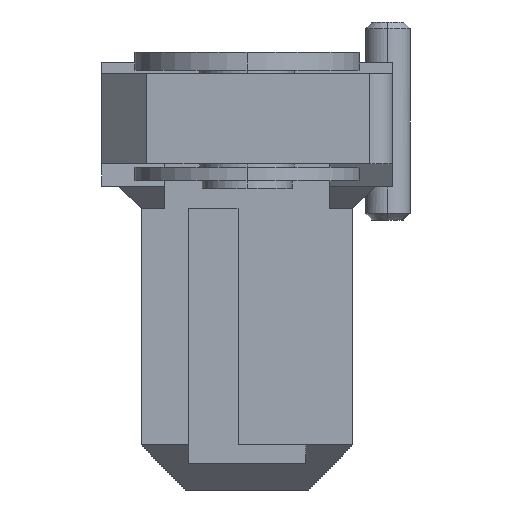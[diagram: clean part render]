
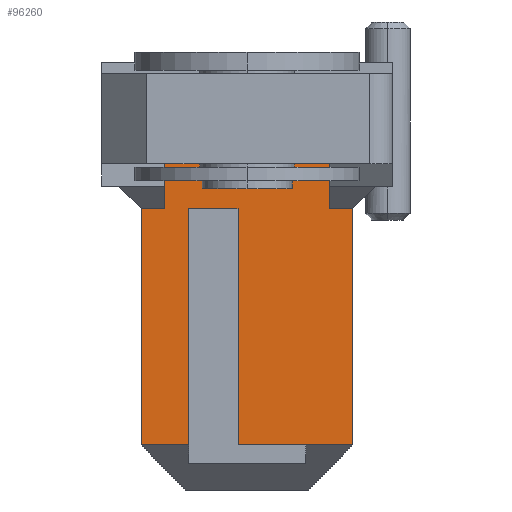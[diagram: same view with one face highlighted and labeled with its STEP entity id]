
A CAD part, left-side view. The second image highlights one B-rep face of the part: STEP entity #96260.
In plain terms, the highlighted planar face has unit normal (-1, 0, 0).
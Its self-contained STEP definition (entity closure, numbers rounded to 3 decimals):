
#95150=CARTESIAN_POINT('',(3.222,-3.386,-19.));
#95160=DIRECTION('',(-1.,0.,0.));
#95170=DIRECTION('',(0.,-1.,0.));
#95180=AXIS2_PLACEMENT_3D('',#95150,#95160,#95170);
#95190=PLANE('',#95180);
#95200=CARTESIAN_POINT('',(3.222,3.914,0.));
#95210=DIRECTION('',(0.,0.,1.));
#95220=VECTOR('',#95210,1.);
#95230=LINE('',#95200,#95220);
#95240=CARTESIAN_POINT('',(3.222,3.914,-17.));
#95250=VERTEX_POINT('',#95240);
#95260=CARTESIAN_POINT('',(3.222,3.914,
-6.5));
#95270=VERTEX_POINT('',#95260);
#95280=EDGE_CURVE('',#95250,#95270,#95230,.T.);
#95290=ORIENTED_EDGE('',*,*,#95280,.T.);
#95300=CARTESIAN_POINT('',(3.222,0.,-17.))
;
#95310=DIRECTION('',(0.,-1.,0.));
#95320=VECTOR('',#95310,1.);
#95330=LINE('',#95300,#95320);
#95340=CARTESIAN_POINT('',(3.222,6.014,-17.));
#95350=VERTEX_POINT('',#95340);
#95360=EDGE_CURVE('',#95350,#95250,#95330,.T.);
#95370=ORIENTED_EDGE('',*,*,#95360,.T.);
#95380=CARTESIAN_POINT('',(3.222,6.014,0.));
#95390=DIRECTION('',(0.,0.,1.));
#95400=VECTOR('',#95390,1.);
#95410=LINE('',#95380,#95400);
#95420=CARTESIAN_POINT('',(3.222,6.014,
-6.5));
#95430=VERTEX_POINT('',#95420);
#95440=EDGE_CURVE('',#95350,#95430,#95410,.T.);
#95450=ORIENTED_EDGE('',*,*,#95440,.F.);
#95460=CARTESIAN_POINT('',(3.222,5.989,
-6.5));
#95470=DIRECTION('',(0.,1.,0.));
#95480=VECTOR('',#95470,1.);
#95490=LINE('',#95460,#95480);
#95500=CARTESIAN_POINT('',(3.222,4.964,
-6.5));
#95510=VERTEX_POINT('',#95500);
#95520=EDGE_CURVE('',#95510,#95430,#95490,.T.);
#95530=ORIENTED_EDGE('',*,*,#95520,.T.);
#95540=CARTESIAN_POINT('',(3.222,4.964,0.));
#95550=DIRECTION('',(0.,0.,1.));
#95560=VECTOR('',#95550,1.);
#95570=LINE('',#95540,#95560);
#95580=CARTESIAN_POINT('',(3.222,4.964,-4.5));
#95590=VERTEX_POINT('',#95580);
#95600=EDGE_CURVE('',#95510,#95590,#95570,.T.);
#95610=ORIENTED_EDGE('',*,*,#95600,.F.);
#95620=CARTESIAN_POINT('',(3.222,0.,-4.5))
;
#95630=DIRECTION('',(0.,-1.,0.));
#95640=VECTOR('',#95630,1.);
#95650=LINE('',#95620,#95640);
#95660=CARTESIAN_POINT('',(3.222,-2.336,-4.5));
#95670=VERTEX_POINT('',#95660);
#95680=EDGE_CURVE('',#95590,#95670,#95650,.T.);
#95690=ORIENTED_EDGE('',*,*,#95680,.F.);
#95700=CARTESIAN_POINT('',(3.222,-2.336,0.));
#95710=DIRECTION('',(0.,0.,-1.));
#95720=VECTOR('',#95710,1.);
#95730=LINE('',#95700,#95720);
#95740=CARTESIAN_POINT('',(3.222,-2.336,
-6.5));
#95750=VERTEX_POINT('',#95740);
#95760=EDGE_CURVE('',#95670,#95750,#95730,.T.);
#95770=ORIENTED_EDGE('',*,*,#95760,.F.);
#95780=CARTESIAN_POINT('',(3.222,0.,-6.5));
#95790=DIRECTION('',(0.,-1.,0.));
#95800=VECTOR('',#95790,1.);
#95810=LINE('',#95780,#95800);
#95820=CARTESIAN_POINT('',(3.222,-3.386,
-6.5));
#95830=VERTEX_POINT('',#95820);
#95840=EDGE_CURVE('',#95750,#95830,#95810,.T.);
#95850=ORIENTED_EDGE('',*,*,#95840,.F.);
#95860=CARTESIAN_POINT('',(3.222,-3.386,0.));
#95870=DIRECTION('',(0.,0.,-1.));
#95880=VECTOR('',#95870,1.);
#95890=LINE('',#95860,#95880);
#95900=CARTESIAN_POINT('',(3.222,-3.386,-17.));
#95910=VERTEX_POINT('',#95900);
#95920=EDGE_CURVE('',#95830,#95910,#95890,.T.);
#95930=ORIENTED_EDGE('',*,*,#95920,.F.);
#95940=CARTESIAN_POINT('',(3.222,0.,-17.))
;
#95950=DIRECTION('',(0.,-1.,0.));
#95960=VECTOR('',#95950,1.);
#95970=LINE('',#95940,#95960);
#95980=CARTESIAN_POINT('',(3.222,-1.286,-17.));
#95990=VERTEX_POINT('',#95980);
#96000=EDGE_CURVE('',#95990,#95910,#95970,.T.);
#96010=ORIENTED_EDGE('',*,*,#96000,.T.);
#96020=CARTESIAN_POINT('',(3.222,0.,-17.))
;
#96030=DIRECTION('',(0.,-1.,0.));
#96040=VECTOR('',#96030,1.);
#96050=LINE('',#96020,#96040);
#96060=CARTESIAN_POINT('',(3.222,1.714,-17.));
#96070=VERTEX_POINT('',#96060);
#96080=EDGE_CURVE('',#96070,#95990,#96050,.T.);
#96090=ORIENTED_EDGE('',*,*,#96080,.T.);
#96100=CARTESIAN_POINT('',(3.222,1.714,0.));
#96110=DIRECTION('',(0.,0.,1.));
#96120=VECTOR('',#96110,1.);
#96130=LINE('',#96100,#96120);
#96140=CARTESIAN_POINT('',(3.222,1.714,
-6.5));
#96150=VERTEX_POINT('',#96140);
#96160=EDGE_CURVE('',#96070,#96150,#96130,.T.);
#96170=ORIENTED_EDGE('',*,*,#96160,.F.);
#96180=CARTESIAN_POINT('',(3.222,0.,-6.5));
#96190=DIRECTION('',(0.,1.,0.));
#96200=VECTOR('',#96190,1.);
#96210=LINE('',#96180,#96200);
#96220=EDGE_CURVE('',#96150,#95270,#96210,.T.);
#96230=ORIENTED_EDGE('',*,*,#96220,.F.);
#96240=EDGE_LOOP('',(#96230,#96170,#96090,#96010,#95930,#95850,#95770,
#95690,#95610,#95530,#95450,#95370,#95290));
#96250=FACE_OUTER_BOUND('',#96240,.T.);
#96260=ADVANCED_FACE('',(#96250),#95190,.T.);
